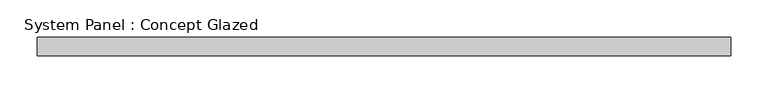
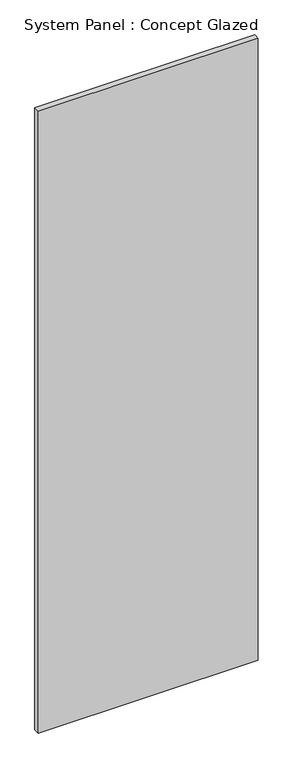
"""IFC4 building model written with IfcOpenShell, lengths in millimetres: plate geometry, System Panel : Concept Glazed."""

from ifc_helpers import new_model, si_unit, origin, origin_with_axes, place, context, project, spatial, polyline, outline, extrude, source, transform, mapped, element, save


def system_panel_concept_glazed_18a70290(model_context):
    return source(origin(), model_context, "Body", "SweptSolid", [
        extrude(outline(polyline([(468.75, 27.5), (-468.75, 27.5), (-468.75, 52.5), (468.75, 52.5), (468.75, 27.5)])), origin_with_axes(), (0.0, 0.0, 1.0), 2800.0),
    ])


if __name__ == "__main__":
    model = new_model("IFC4")
    model_context = context("Model", 3, world=origin())
    ifc_project = project(units=[si_unit("LENGTHUNIT", "METRE", prefix="MILLI")], contexts=[model_context])
    site = spatial("IfcSite", under=ifc_project)
    building = spatial("IfcBuilding", under=site)
    placement = place(None, origin())
    system_panel_concept_glazed_shape = system_panel_concept_glazed_18a70290(model_context)
    element("IfcPlate", 1, ObjectType="System Panel : Concept Glazed", at=placement, inside=building, context=model_context, shape_type="MappedRepresentation", body=[
        mapped(system_panel_concept_glazed_shape, transform((0.0, 0.0, 0.0), x_axis=(1.0, 0.0, 0.0), y_axis=(0.0, 1.0, 0.0), z_axis=(0.0, 0.0, 1.0))),
    ])
    save(model, "model.ifc")
